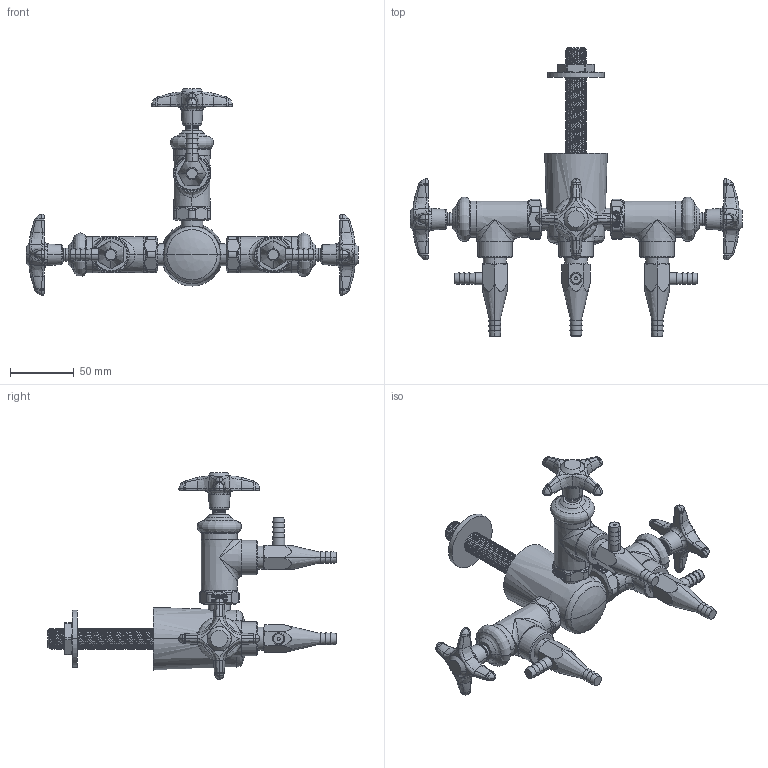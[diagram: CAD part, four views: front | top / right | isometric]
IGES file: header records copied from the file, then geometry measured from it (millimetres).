
Start section:  PTC IGES file: LWV2-C32-30.igs
Global section: file name: LWV2-C32-30.igs; native system: Creo Parametric by PTC Inc.; preprocessor: 2014500; author: usch_engrender; organization: Unknown; date: 20151124.122151; units: inch
Bounding box: 259.77 x 225.55 x 161.59 mm (x, y, z)
Volume: 395921.3 mm3; surface area: 80029.6 mm2
Topology: 1 solids, 11 shells, 1513 faces, 3533 edges, 2099 vertices
Faces by surface type: bspline 838, revolution 675
